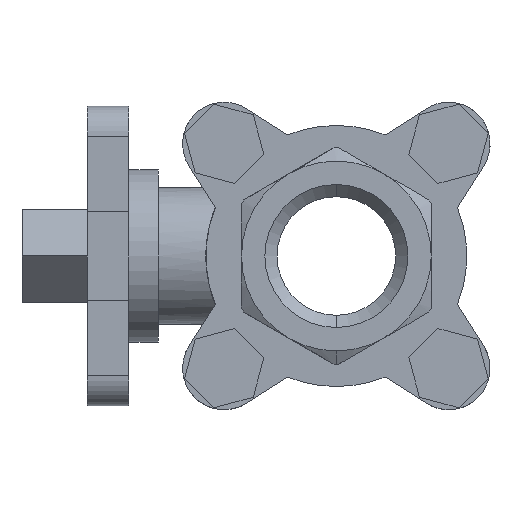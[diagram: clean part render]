
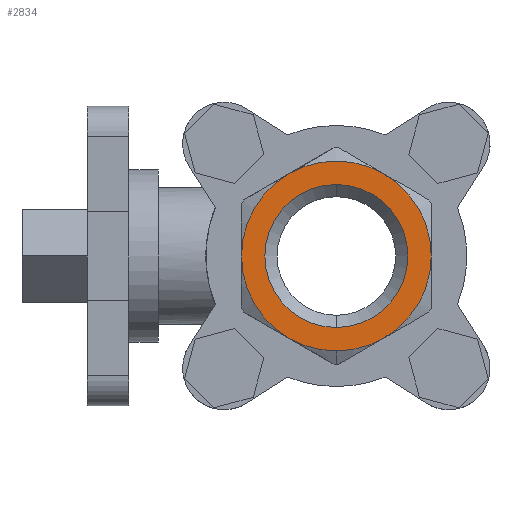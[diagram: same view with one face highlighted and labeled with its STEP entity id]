
A CAD part, left-side view. The second image highlights one B-rep face of the part: STEP entity #2834.
In plain terms, the highlighted planar face has unit normal (-1, 0, 0).
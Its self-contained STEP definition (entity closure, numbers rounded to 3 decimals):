
#26 = CARTESIAN_POINT ( 'NONE',  ( -36.5, 0., 0. ) ) ;
#27 = DIRECTION ( 'NONE',  ( -1., 0., 0. ) ) ;
#70 = CIRCLE ( 'NONE', #3285, 16. ) ;
#97 = AXIS2_PLACEMENT_3D ( 'NONE', #303, #4367, #901 ) ;
#160 = DIRECTION ( 'NONE',  ( 1., 0., 0. ) ) ;
#286 = AXIS2_PLACEMENT_3D ( 'NONE', #5439, #1961, #6017 ) ;
#303 = CARTESIAN_POINT ( 'NONE',  ( -36.5, 0., 0. ) ) ;
#380 = AXIS2_PLACEMENT_3D ( 'NONE', #5574, #2113, #6160 ) ;
#398 = CARTESIAN_POINT ( 'NONE',  ( -36.5, -8., 13.856 ) ) ;
#610 = DIRECTION ( 'NONE',  ( 0., 0., 1. ) ) ;
#693 = FACE_OUTER_BOUND ( 'NONE', #3273, .T. ) ;
#701 = ORIENTED_EDGE ( 'NONE', *, *, #3835, .T. ) ;
#715 = VERTEX_POINT ( 'NONE', #3687 ) ;
#901 = DIRECTION ( 'NONE',  ( 0., 0., 1. ) ) ;
#994 = ORIENTED_EDGE ( 'NONE', *, *, #1661, .T. ) ;
#1228 = AXIS2_PLACEMENT_3D ( 'NONE', #6194, #2736, #6749 ) ;
#1306 = VERTEX_POINT ( 'NONE', #398 ) ;
#1317 = ORIENTED_EDGE ( 'NONE', *, *, #5015, .T. ) ;
#1397 = VERTEX_POINT ( 'NONE', #2428 ) ;
#1599 = CIRCLE ( 'NONE', #286, 16. ) ;
#1600 = VERTEX_POINT ( 'NONE', #7245 ) ;
#1661 = EDGE_CURVE ( 'NONE', #1600, #6317, #3529, .T. ) ;
#1793 = VERTEX_POINT ( 'NONE', #6891 ) ;
#1886 = AXIS2_PLACEMENT_3D ( 'NONE', #3187, #7199, #3758 ) ;
#1961 = DIRECTION ( 'NONE',  ( -1., 0., 0. ) ) ;
#2017 = ORIENTED_EDGE ( 'NONE', *, *, #4686, .F. ) ;
#2049 = DIRECTION ( 'NONE',  ( -1., 0., 0. ) ) ;
#2113 = DIRECTION ( 'NONE',  ( -1., 0., 0. ) ) ;
#2206 = EDGE_CURVE ( 'NONE', #1397, #1306, #70, .T. ) ;
#2383 = VERTEX_POINT ( 'NONE', #4562 ) ;
#2428 = CARTESIAN_POINT ( 'NONE',  ( -36.5, -16., 0. ) ) ;
#2434 = CIRCLE ( 'NONE', #3625, 12.055 ) ;
#2736 = DIRECTION ( 'NONE',  ( -1., 0., 0. ) ) ;
#2831 = EDGE_CURVE ( 'NONE', #715, #1793, #2434, .T. ) ;
#2834 = ADVANCED_FACE ( 'NONE', ( #3598, #693 ), #5357, .F. ) ;
#3045 = CARTESIAN_POINT ( 'NONE',  ( -36.5, 0., 0. ) ) ;
#3187 = CARTESIAN_POINT ( 'NONE',  ( -36.5, 0., 0. ) ) ;
#3225 = ORIENTED_EDGE ( 'NONE', *, *, #7204, .T. ) ;
#3273 = EDGE_LOOP ( 'NONE', ( #701, #6286, #3225, #994, #1317, #5041, #6336 ) ) ;
#3285 = AXIS2_PLACEMENT_3D ( 'NONE', #5527, #2049, #6105 ) ;
#3504 = CARTESIAN_POINT ( 'NONE',  ( -36.5, 0., 0. ) ) ;
#3529 = CIRCLE ( 'NONE', #1228, 16. ) ;
#3598 = FACE_BOUND ( 'NONE', #4301, .T. ) ;
#3625 = AXIS2_PLACEMENT_3D ( 'NONE', #3045, #7068, #3635 ) ;
#3635 = DIRECTION ( 'NONE',  ( 0., 0., 1. ) ) ;
#3687 = CARTESIAN_POINT ( 'NONE',  ( -36.5, 0., 12.055 ) ) ;
#3758 = DIRECTION ( 'NONE',  ( 0., 0., 1. ) ) ;
#3835 = EDGE_CURVE ( 'NONE', #5854, #5889, #1599, .T. ) ;
#3982 = CIRCLE ( 'NONE', #380, 16. ) ;
#3988 = AXIS2_PLACEMENT_3D ( 'NONE', #3504, #27, #4082 ) ;
#4081 = DIRECTION ( 'NONE',  ( -1., 0., 0. ) ) ;
#4082 = DIRECTION ( 'NONE',  ( 0., 0., 1. ) ) ;
#4207 = DIRECTION ( 'NONE',  ( 0., 0., -1. ) ) ;
#4301 = EDGE_LOOP ( 'NONE', ( #5344, #2017 ) ) ;
#4367 = DIRECTION ( 'NONE',  ( -1., 0., 0. ) ) ;
#4539 = EDGE_CURVE ( 'NONE', #5889, #2383, #3982, .T. ) ;
#4562 = CARTESIAN_POINT ( 'NONE',  ( -36.5, 8., -13.856 ) ) ;
#4686 = EDGE_CURVE ( 'NONE', #1793, #715, #5982, .T. ) ;
#4794 = AXIS2_PLACEMENT_3D ( 'NONE', #5932, #160, #4207 ) ;
#4901 = CARTESIAN_POINT ( 'NONE',  ( -36.5, 8., 13.856 ) ) ;
#5015 = EDGE_CURVE ( 'NONE', #6317, #1397, #5525, .T. ) ;
#5041 = ORIENTED_EDGE ( 'NONE', *, *, #2206, .T. ) ;
#5298 = EDGE_CURVE ( 'NONE', #1306, #5854, #6410, .T. ) ;
#5344 = ORIENTED_EDGE ( 'NONE', *, *, #2831, .F. ) ;
#5357 = PLANE ( 'NONE',  #4794 ) ;
#5406 = CIRCLE ( 'NONE', #3988, 16. ) ;
#5439 = CARTESIAN_POINT ( 'NONE',  ( -36.5, 0., 0. ) ) ;
#5472 = CARTESIAN_POINT ( 'NONE',  ( -36.5, 16., 0. ) ) ;
#5525 = CIRCLE ( 'NONE', #97, 16. ) ;
#5527 = CARTESIAN_POINT ( 'NONE',  ( -36.5, 0., 0. ) ) ;
#5574 = CARTESIAN_POINT ( 'NONE',  ( -36.5, 0., 0. ) ) ;
#5854 = VERTEX_POINT ( 'NONE', #4901 ) ;
#5889 = VERTEX_POINT ( 'NONE', #5472 ) ;
#5932 = CARTESIAN_POINT ( 'NONE',  ( -36.5, 12.055, 0. ) ) ;
#5982 = CIRCLE ( 'NONE', #6960, 12.055 ) ;
#6017 = DIRECTION ( 'NONE',  ( 0., 0., 1. ) ) ;
#6105 = DIRECTION ( 'NONE',  ( 0., 0., 1. ) ) ;
#6160 = DIRECTION ( 'NONE',  ( 0., 0., 1. ) ) ;
#6194 = CARTESIAN_POINT ( 'NONE',  ( -36.5, 0., 0. ) ) ;
#6286 = ORIENTED_EDGE ( 'NONE', *, *, #4539, .T. ) ;
#6317 = VERTEX_POINT ( 'NONE', #7082 ) ;
#6336 = ORIENTED_EDGE ( 'NONE', *, *, #5298, .T. ) ;
#6410 = CIRCLE ( 'NONE', #1886, 16. ) ;
#6749 = DIRECTION ( 'NONE',  ( 0., 0., 1. ) ) ;
#6891 = CARTESIAN_POINT ( 'NONE',  ( -36.5, 0., -12.055 ) ) ;
#6960 = AXIS2_PLACEMENT_3D ( 'NONE', #26, #4081, #610 ) ;
#7068 = DIRECTION ( 'NONE',  ( -1., 0., 0. ) ) ;
#7082 = CARTESIAN_POINT ( 'NONE',  ( -36.5, -8., -13.856 ) ) ;
#7199 = DIRECTION ( 'NONE',  ( -1., 0., 0. ) ) ;
#7204 = EDGE_CURVE ( 'NONE', #2383, #1600, #5406, .T. ) ;
#7245 = CARTESIAN_POINT ( 'NONE',  ( -36.5, 0., -16. ) ) ;
